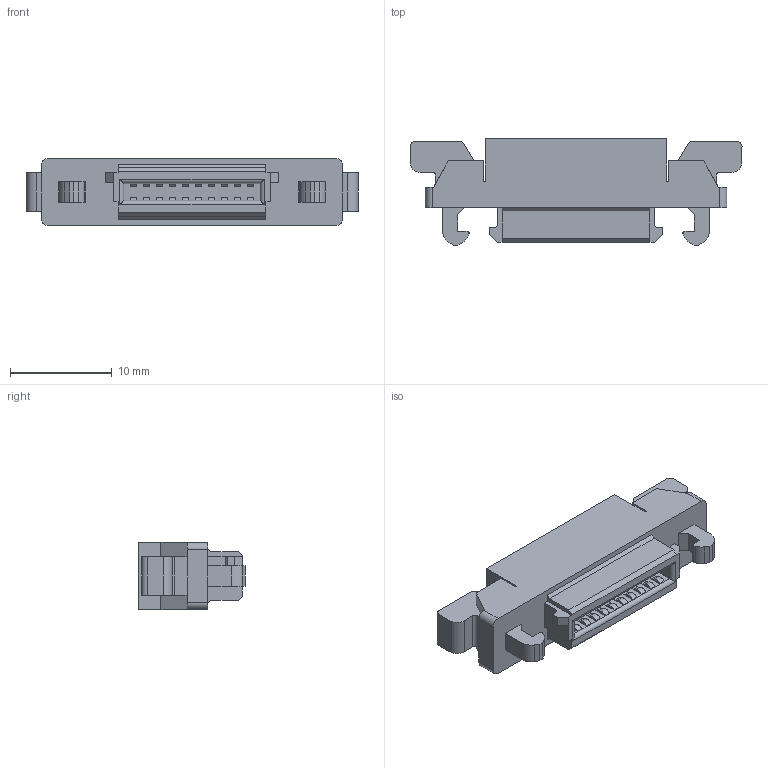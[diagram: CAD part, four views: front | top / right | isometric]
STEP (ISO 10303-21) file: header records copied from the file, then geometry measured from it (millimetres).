
FILE_DESCRIPTION(('CoCreate Modeling STEP Export'),'2;1');
FILE_NAME('P39478_8925R-020-179-F.stp','2018-01-19T10:22:46',(''),(''),'CoCreate Modeling STEP processor for AP214 (Solid Model)','CoCreate Modeling 17.0B 09-Oct-2010 (C) Parametric Technology GmbH','');
FILE_SCHEMA(('AUTOMOTIVE_DESIGN { 1 0 10303 214 1 1 1 1 }'));
Length unit declared in the file: millimetre
Products named in the file (2): 8925R-020-179-F
Assembly tree (1 placements, depth 2):
  8925R-020-179-F
    8925R-020-179-F
Bounding box: 32.64 x 10.5 x 6.6 mm (x, y, z)
Volume: 1411.6 mm3; surface area: 1260.8 mm2
Topology: 1 solids, 1 shells, 228 faces, 652 edges, 430 vertices
Faces by surface type: plane 164, cylinder 64
Entity records: 7260 total; most frequent: ORIENTED_EDGE 1304, CARTESIAN_POINT 1272, DIRECTION 1183, EDGE_CURVE 652, VECTOR 501, LINE 501, VERTEX_POINT 430, AXIS2_PLACEMENT_3D 341
